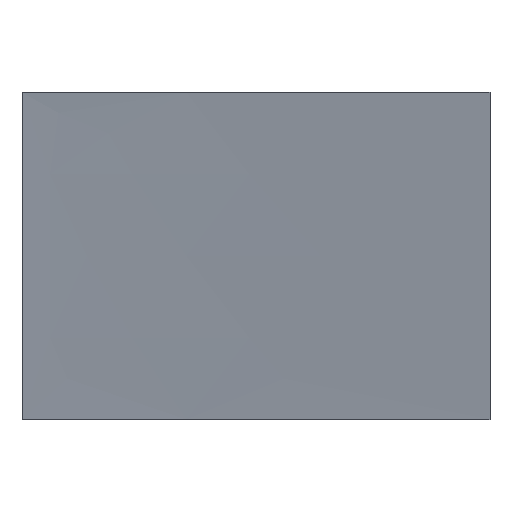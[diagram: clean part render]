
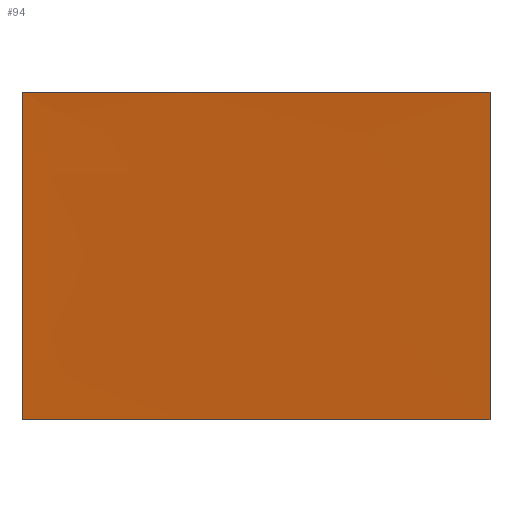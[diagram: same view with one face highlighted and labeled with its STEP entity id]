
A CAD part, front view. The second image highlights one B-rep face of the part: STEP entity #94.
In plain terms, the highlighted free-form (B-spline) face has degree [3, 1] with [4, 2] control points.
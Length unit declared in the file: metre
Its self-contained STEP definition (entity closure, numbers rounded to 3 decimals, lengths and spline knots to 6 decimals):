
#12=B_SPLINE_SURFACE_WITH_KNOTS('',3,1,((#164,#165),(#166,#167),(#168,#169),(#170,#171)),.SURF_OF_LINEAR_EXTRUSION.,.F.,.F.,.F.,(4,4),(2,2),(0.,1.),(0.,1.),.PIECEWISE_BEZIER_KNOTS.);
#15=B_SPLINE_CURVE_WITH_KNOTS('',2,(#153,#154,#155),.UNSPECIFIED.,.F.,.F.,(3,3),(0.,1.),.PIECEWISE_BEZIER_KNOTS.);
#16=B_SPLINE_CURVE_WITH_KNOTS('',2,(#174,#175,#176),.UNSPECIFIED.,.F.,.F.,(3,3),(0.,1.),.PIECEWISE_BEZIER_KNOTS.);
#18=LINE('',#159,#24);
#20=LINE('',#172,#26);
#24=VECTOR('',#131,1.);
#26=VECTOR('',#135,1.);
#37=ORIENTED_EDGE('',*,*,#55,.T.);
#38=ORIENTED_EDGE('',*,*,#60,.T.);
#39=ORIENTED_EDGE('',*,*,#61,.F.);
#40=ORIENTED_EDGE('',*,*,#57,.F.);
#55=EDGE_CURVE('',#68,#67,#15,.T.);
#57=EDGE_CURVE('',#68,#69,#18,.T.);
#60=EDGE_CURVE('',#67,#71,#20,.T.);
#61=EDGE_CURVE('',#69,#71,#16,.T.);
#67=VERTEX_POINT('',#152);
#68=VERTEX_POINT('',#156);
#69=VERTEX_POINT('',#160);
#71=VERTEX_POINT('',#173);
#79=EDGE_LOOP('',(#37,#38,#39,#40));
#85=FACE_BOUND('',#79,.T.);
#94=ADVANCED_FACE('',(#85),#12,.T.);
#131=DIRECTION('',(0.,0.,1.));
#135=DIRECTION('',(0.,0.,1.));
#152=CARTESIAN_POINT('',(-0.043295,0.038294,0.));
#153=CARTESIAN_POINT('',(-0.045441,0.038935,0.));
#154=CARTESIAN_POINT('',(-0.045007,0.038823,0.));
#155=CARTESIAN_POINT('',(-0.043295,0.038294,0.));
#156=CARTESIAN_POINT('',(-0.045441,0.038935,0.));
#159=CARTESIAN_POINT('',(-0.045441,0.038935,-0.0235));
#160=CARTESIAN_POINT('',(-0.045441,0.038935,0.0015));
#164=CARTESIAN_POINT('',(-0.045441,0.038935,0.));
#165=CARTESIAN_POINT('',(-0.045441,0.038935,0.0015));
#166=CARTESIAN_POINT('',(-0.045152,0.03886,0.));
#167=CARTESIAN_POINT('',(-0.045152,0.03886,0.0015));
#168=CARTESIAN_POINT('',(-0.044436,0.038647,0.));
#169=CARTESIAN_POINT('',(-0.044436,0.038647,0.0015));
#170=CARTESIAN_POINT('',(-0.043295,0.038294,0.));
#171=CARTESIAN_POINT('',(-0.043295,0.038294,0.0015));
#172=CARTESIAN_POINT('',(-0.043295,0.038294,-0.0235));
#173=CARTESIAN_POINT('',(-0.043295,0.038294,0.0015));
#174=CARTESIAN_POINT('',(-0.045441,0.038935,0.0015));
#175=CARTESIAN_POINT('',(-0.045007,0.038823,0.0015));
#176=CARTESIAN_POINT('',(-0.043295,0.038294,0.0015));
